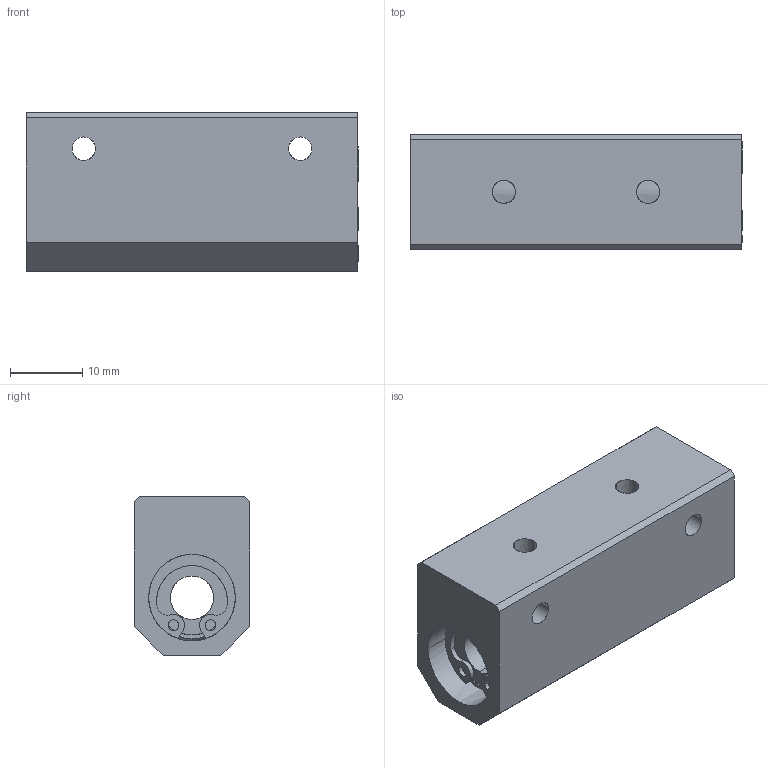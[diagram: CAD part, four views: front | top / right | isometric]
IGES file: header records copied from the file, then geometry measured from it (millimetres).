
Global section: file name: No Iges File Name specified; native system: AutoDesk Inventor R11.0; preprocessor: AutoDesk Inventor Iges Exporter R11.0; author: No Author specified; organization: No Organization specified; date: 20111024.132648; units: millimetre
Bounding box: 46 x 16 x 22 mm (x, y, z)
Surface area: 6223.8 mm2 (no closed solid volume)
Topology: 0 solids, 0 shells, 114 faces, 912 edges, 912 vertices
Faces by surface type: bspline 114
